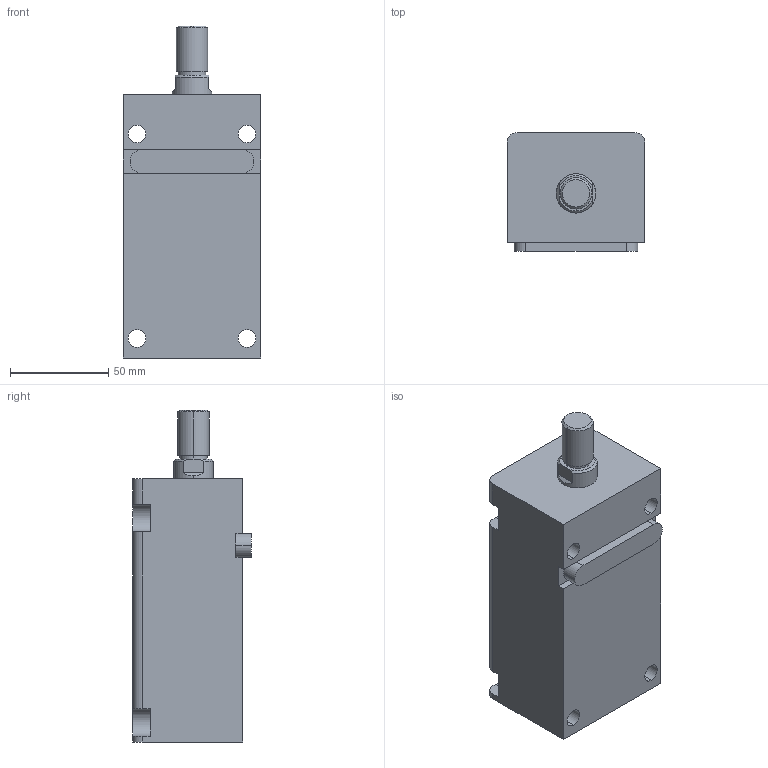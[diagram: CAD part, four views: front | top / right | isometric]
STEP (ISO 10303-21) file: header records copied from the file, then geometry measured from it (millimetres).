
FILE_DESCRIPTION (( 'STEP AP203' ), '1' );
FILE_NAME ('HTB-LA32-80W.STEP', '2019-10-09T06:31:23', ( '微软用户' ), ( '微软中国' ), 'SwSTEP 2.0', 'SolidWorks 2012', '' );
FILE_SCHEMA (( 'CONFIG_CONTROL_DESIGN' ));
Length unit declared in the file: millimetre
Products named in the file (4): HTB-LA32-80掛极; HTB-LA32-瑩; HTB-LA32-80W; HTB-LA32-80W活塞杆
Assembly tree (3 placements, depth 2):
  HTB-LA32-80W
    HTB-LA32-80掛极
    HTB-LA32-80W活塞杆
    HTB-LA32-瑩
Bounding box: 70 x 60.5 x 169 mm (x, y, z)
Volume: 475396.3 mm3; surface area: 74699.5 mm2
Topology: 3 solids, 3 shells, 92 faces, 223 edges, 146 vertices
Faces by surface type: plane 41, cylinder 37, cone 8, torus 6
Entity records: 3159 total; most frequent: DIRECTION 509, CARTESIAN_POINT 495, ORIENTED_EDGE 446, EDGE_CURVE 223, AXIS2_PLACEMENT_3D 196, VERTEX_POINT 146, VECTOR 117, LINE 117
